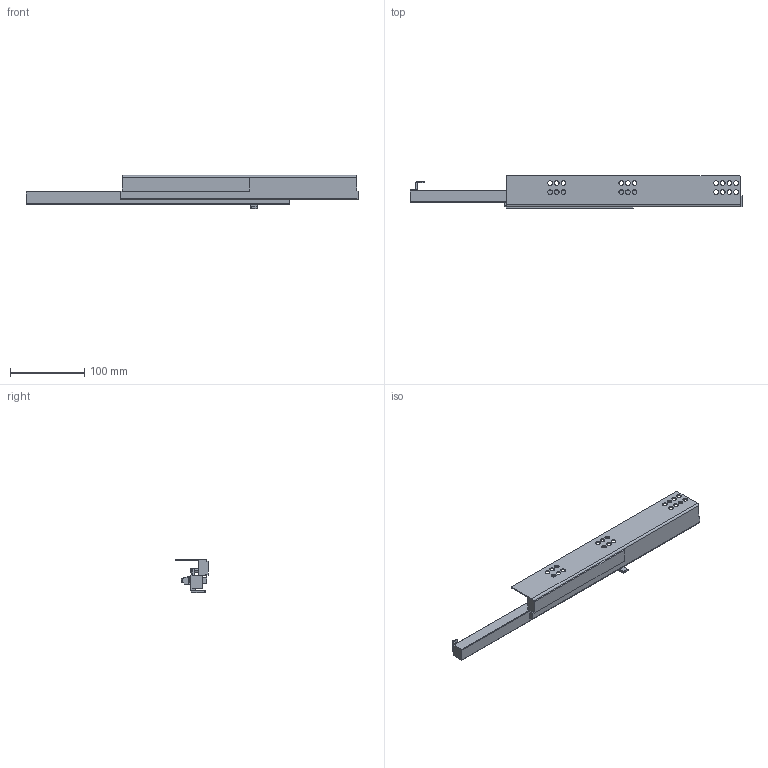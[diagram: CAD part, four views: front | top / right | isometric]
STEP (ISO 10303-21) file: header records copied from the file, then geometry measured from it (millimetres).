
FILE_DESCRIPTION (( 'STEP AP203' ), '1' );
FILE_NAME ('GG10450H-L-DTC3D-close.STEP', '2021-07-02T01:01:54', ( 'df' ), ( 'Microsoft' ), 'SwSTEP 2.0', 'SolidWorks 2018', '' );
FILE_SCHEMA (( 'CONFIG_CONTROL_DESIGN' ));
Length unit declared in the file: millimetre
Products named in the file (1): GG10450H-L-DTC3D-close
Bounding box: 448 x 44.1 x 44.73 mm (x, y, z)
Volume: 198992.4 mm3; surface area: 72992.1 mm2
Topology: 1 solids, 1 shells, 172 faces, 483 edges, 313 vertices
Faces by surface type: cylinder 88, plane 76, bspline 4, sphere 2, cone 2
Entity records: 5778 total; most frequent: CARTESIAN_POINT 1133, ORIENTED_EDGE 962, DIRECTION 955, EDGE_CURVE 481, AXIS2_PLACEMENT_3D 335, VERTEX_POINT 313, LINE 285, VECTOR 285
